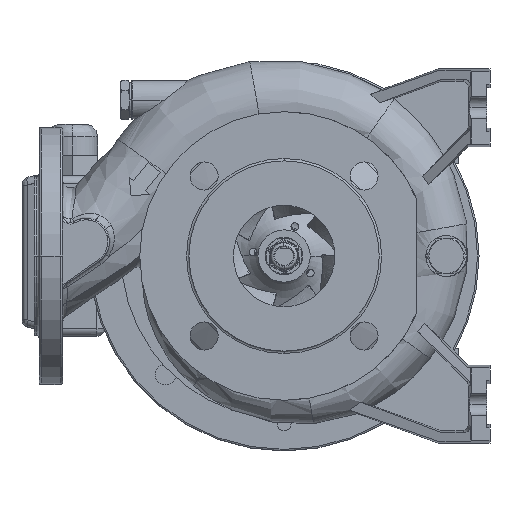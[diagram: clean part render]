
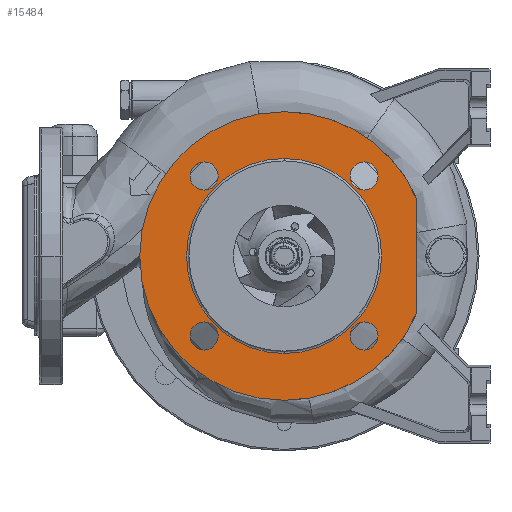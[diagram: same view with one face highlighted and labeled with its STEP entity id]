
A CAD part, left-side view. The second image highlights one B-rep face of the part: STEP entity #15484.
In plain terms, the highlighted planar face has unit normal (-1, 0, 0).
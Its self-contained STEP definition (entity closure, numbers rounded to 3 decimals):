
#1110 = CARTESIAN_POINT ( 'NONE',  ( -113., 51.265, 51.265 ) ) ;
#2060 = EDGE_LOOP ( 'NONE', ( #25164, #75571 ) ) ;
#2558 = CARTESIAN_POINT ( 'NONE',  ( -113., 51.265, 51.265 ) ) ;
#3131 = PLANE ( 'NONE',  #74619 ) ;
#3897 = AXIS2_PLACEMENT_3D ( 'NONE', #80442, #105659, #15649 ) ;
#4099 = CARTESIAN_POINT ( 'NONE',  ( -113., 0., 0. ) ) ;
#4300 = CARTESIAN_POINT ( 'NONE',  ( -113., -85., -40.137 ) ) ;
#7100 = AXIS2_PLACEMENT_3D ( 'NONE', #2558, #84758, #11074 ) ;
#7129 = CARTESIAN_POINT ( 'NONE',  ( -113., 0., 62.5 ) ) ;
#7567 = DIRECTION ( 'NONE',  ( 0., 0., -1. ) ) ;
#7575 = EDGE_CURVE ( 'NONE', #91509, #90825, #26803, .T. ) ;
#7909 = FACE_BOUND ( 'NONE', #21168, .T. ) ;
#8040 = VERTEX_POINT ( 'NONE', #83973 ) ;
#8208 = CARTESIAN_POINT ( 'NONE',  ( -113., -51.265, -51.265 ) ) ;
#8448 = DIRECTION ( 'NONE',  ( 0., 0., 1. ) ) ;
#10129 = CARTESIAN_POINT ( 'NONE',  ( -113., -85., -36.486 ) ) ;
#11074 = DIRECTION ( 'NONE',  ( 0., 0., 1. ) ) ;
#12376 = CIRCLE ( 'NONE', #55450, 9. ) ;
#12778 = AXIS2_PLACEMENT_3D ( 'NONE', #17934, #59227, #90882 ) ;
#13048 = DIRECTION ( 'NONE',  ( -1., 0., 0. ) ) ;
#14053 = ORIENTED_EDGE ( 'NONE', *, *, #66824, .T. ) ;
#14190 = CIRCLE ( 'NONE', #36866, 92.5 ) ;
#14642 = DIRECTION ( 'NONE',  ( -1., 0., 0. ) ) ;
#15484 = ADVANCED_FACE ( 'NONE', ( #81810, #7909, #41049, #48729, #60144, #103396 ), #3131, .F. ) ;
#15649 = DIRECTION ( 'NONE',  ( 0., 0., 1. ) ) ;
#16506 = VERTEX_POINT ( 'NONE', #60243 ) ;
#16699 = VERTEX_POINT ( 'NONE', #7129 ) ;
#17934 = CARTESIAN_POINT ( 'NONE',  ( -113., -51.265, -51.265 ) ) ;
#18138 = EDGE_CURVE ( 'NONE', #90825, #37821, #14190, .T. ) ;
#19154 = DIRECTION ( 'NONE',  ( -1., 0., 0. ) ) ;
#19727 = EDGE_CURVE ( 'NONE', #16699, #34787, #89778, .T. ) ;
#20190 = CIRCLE ( 'NONE', #40835, 92.5 ) ;
#20220 = CARTESIAN_POINT ( 'NONE',  ( -113., -51.265, -60.265 ) ) ;
#20518 = EDGE_CURVE ( 'NONE', #73718, #30059, #88342, .T. ) ;
#21168 = EDGE_LOOP ( 'NONE', ( #68301, #64631 ) ) ;
#25164 = ORIENTED_EDGE ( 'NONE', *, *, #35934, .F. ) ;
#25428 = CARTESIAN_POINT ( 'NONE',  ( -113., 0., 0. ) ) ;
#26449 = DIRECTION ( 'NONE',  ( -1., 0., 0. ) ) ;
#26495 = VERTEX_POINT ( 'NONE', #58311 ) ;
#26777 = CIRCLE ( 'NONE', #75541, 9. ) ;
#26803 = CIRCLE ( 'NONE', #44286, 92.5 ) ;
#27037 = CARTESIAN_POINT ( 'NONE',  ( -113., 0., 62.5 ) ) ;
#28062 = DIRECTION ( 'NONE',  ( 0., 0., -1. ) ) ;
#30059 = VERTEX_POINT ( 'NONE', #77895 ) ;
#34787 = VERTEX_POINT ( 'NONE', #40328 ) ;
#34870 = EDGE_CURVE ( 'NONE', #8040, #26495, #26777, .T. ) ;
#35895 = DIRECTION ( 'NONE',  ( 0., 0., -1. ) ) ;
#35934 = EDGE_CURVE ( 'NONE', #30059, #73718, #86484, .T. ) ;
#36866 = AXIS2_PLACEMENT_3D ( 'NONE', #102371, #13048, #78964 ) ;
#37821 = VERTEX_POINT ( 'NONE', #84450 ) ;
#38179 = ORIENTED_EDGE ( 'NONE', *, *, #34870, .F. ) ;
#39131 = AXIS2_PLACEMENT_3D ( 'NONE', #25428, #48212, #7567 ) ;
#40262 = EDGE_LOOP ( 'NONE', ( #77741, #67063 ) ) ;
#40328 = CARTESIAN_POINT ( 'NONE',  ( -113., 0., -62.5 ) ) ;
#40835 = AXIS2_PLACEMENT_3D ( 'NONE', #4099, #68271, #28062 ) ;
#41049 = FACE_BOUND ( 'NONE', #40262, .T. ) ;
#42611 = DIRECTION ( 'NONE',  ( -1., 0., 0. ) ) ;
#43068 = ORIENTED_EDGE ( 'NONE', *, *, #64699, .F. ) ;
#43722 = CARTESIAN_POINT ( 'NONE',  ( -113., 0., 0. ) ) ;
#43901 = DIRECTION ( 'NONE',  ( 0., 0., -1. ) ) ;
#44286 = AXIS2_PLACEMENT_3D ( 'NONE', #50797, #42611, #83872 ) ;
#44760 = CARTESIAN_POINT ( 'NONE',  ( -113., -85., 36.486 ) ) ;
#46944 = EDGE_LOOP ( 'NONE', ( #89803, #38179 ) ) ;
#47783 = DIRECTION ( 'NONE',  ( 0., 0., 1. ) ) ;
#48157 = AXIS2_PLACEMENT_3D ( 'NONE', #64744, #88545, #8448 ) ;
#48212 = DIRECTION ( 'NONE',  ( 1., 0., 0. ) ) ;
#48729 = FACE_BOUND ( 'NONE', #46944, .T. ) ;
#50797 = CARTESIAN_POINT ( 'NONE',  ( -113., 0., 0. ) ) ;
#51078 = AXIS2_PLACEMENT_3D ( 'NONE', #43722, #93126, #35895 ) ;
#51120 = EDGE_CURVE ( 'NONE', #34787, #16699, #84271, .T. ) ;
#51954 = CIRCLE ( 'NONE', #75896, 9. ) ;
#52162 = CIRCLE ( 'NONE', #48157, 9. ) ;
#55450 = AXIS2_PLACEMENT_3D ( 'NONE', #8208, #104995, #47783 ) ;
#58311 = CARTESIAN_POINT ( 'NONE',  ( -113., 51.265, 60.265 ) ) ;
#59227 = DIRECTION ( 'NONE',  ( -1., 0., 0. ) ) ;
#60144 = FACE_OUTER_BOUND ( 'NONE', #76584, .T. ) ;
#60243 = CARTESIAN_POINT ( 'NONE',  ( -113., -51.265, 60.265 ) ) ;
#60927 = ORIENTED_EDGE ( 'NONE', *, *, #51120, .T. ) ;
#62766 = EDGE_LOOP ( 'NONE', ( #60927, #63619 ) ) ;
#63137 = ORIENTED_EDGE ( 'NONE', *, *, #7575, .T. ) ;
#63619 = ORIENTED_EDGE ( 'NONE', *, *, #19727, .T. ) ;
#63701 = CIRCLE ( 'NONE', #12778, 9. ) ;
#64631 = ORIENTED_EDGE ( 'NONE', *, *, #64638, .F. ) ;
#64638 = EDGE_CURVE ( 'NONE', #95835, #72438, #63701, .T. ) ;
#64699 = EDGE_CURVE ( 'NONE', #91509, #95002, #91687, .T. ) ;
#64744 = CARTESIAN_POINT ( 'NONE',  ( -113., -51.265, 51.265 ) ) ;
#64930 = CARTESIAN_POINT ( 'NONE',  ( -113., -51.265, 42.265 ) ) ;
#66688 = CARTESIAN_POINT ( 'NONE',  ( -113., -51.265, -42.265 ) ) ;
#66824 = EDGE_CURVE ( 'NONE', #37821, #95002, #20190, .T. ) ;
#67063 = ORIENTED_EDGE ( 'NONE', *, *, #99673, .F. ) ;
#67937 = CARTESIAN_POINT ( 'NONE',  ( -113., 51.265, -51.265 ) ) ;
#68271 = DIRECTION ( 'NONE',  ( -1., 0., 0. ) ) ;
#68301 = ORIENTED_EDGE ( 'NONE', *, *, #99884, .F. ) ;
#68842 = VECTOR ( 'NONE', #43901, 1000. ) ;
#71904 = AXIS2_PLACEMENT_3D ( 'NONE', #67937, #19154, #76152 ) ;
#72438 = VERTEX_POINT ( 'NONE', #66688 ) ;
#73718 = VERTEX_POINT ( 'NONE', #87062 ) ;
#74619 = AXIS2_PLACEMENT_3D ( 'NONE', #27037, #93514, #84302 ) ;
#75541 = AXIS2_PLACEMENT_3D ( 'NONE', #1110, #26449, #82669 ) ;
#75571 = ORIENTED_EDGE ( 'NONE', *, *, #20518, .F. ) ;
#75896 = AXIS2_PLACEMENT_3D ( 'NONE', #78424, #14642, #95084 ) ;
#76152 = DIRECTION ( 'NONE',  ( 0., 0., 1. ) ) ;
#76584 = EDGE_LOOP ( 'NONE', ( #43068, #63137, #81264, #14053 ) ) ;
#76802 = EDGE_CURVE ( 'NONE', #16506, #90413, #52162, .T. ) ;
#77741 = ORIENTED_EDGE ( 'NONE', *, *, #76802, .F. ) ;
#77895 = CARTESIAN_POINT ( 'NONE',  ( -113., 51.265, -42.265 ) ) ;
#78424 = CARTESIAN_POINT ( 'NONE',  ( -113., -51.265, 51.265 ) ) ;
#78964 = DIRECTION ( 'NONE',  ( 0., 0., -1. ) ) ;
#80442 = CARTESIAN_POINT ( 'NONE',  ( -113., 51.265, -51.265 ) ) ;
#81264 = ORIENTED_EDGE ( 'NONE', *, *, #18138, .T. ) ;
#81810 = FACE_BOUND ( 'NONE', #2060, .T. ) ;
#82669 = DIRECTION ( 'NONE',  ( 0., 0., 1. ) ) ;
#83872 = DIRECTION ( 'NONE',  ( 0., 0., -1. ) ) ;
#83973 = CARTESIAN_POINT ( 'NONE',  ( -113., 51.265, 42.265 ) ) ;
#84271 = CIRCLE ( 'NONE', #51078, 62.5 ) ;
#84302 = DIRECTION ( 'NONE',  ( 0., 0., -1. ) ) ;
#84450 = CARTESIAN_POINT ( 'NONE',  ( -113., 0., -92.5 ) ) ;
#84758 = DIRECTION ( 'NONE',  ( -1., 0., 0. ) ) ;
#86484 = CIRCLE ( 'NONE', #3897, 9. ) ;
#87062 = CARTESIAN_POINT ( 'NONE',  ( -113., 51.265, -60.265 ) ) ;
#87716 = EDGE_CURVE ( 'NONE', #26495, #8040, #105635, .T. ) ;
#88342 = CIRCLE ( 'NONE', #71904, 9. ) ;
#88545 = DIRECTION ( 'NONE',  ( -1., 0., 0. ) ) ;
#89778 = CIRCLE ( 'NONE', #39131, 62.5 ) ;
#89803 = ORIENTED_EDGE ( 'NONE', *, *, #87716, .F. ) ;
#90413 = VERTEX_POINT ( 'NONE', #64930 ) ;
#90825 = VERTEX_POINT ( 'NONE', #96323 ) ;
#90882 = DIRECTION ( 'NONE',  ( 0., 0., 1. ) ) ;
#91509 = VERTEX_POINT ( 'NONE', #44760 ) ;
#91687 = LINE ( 'NONE', #4300, #68842 ) ;
#93126 = DIRECTION ( 'NONE',  ( 1., 0., 0. ) ) ;
#93514 = DIRECTION ( 'NONE',  ( 1., 0., 0. ) ) ;
#95002 = VERTEX_POINT ( 'NONE', #10129 ) ;
#95084 = DIRECTION ( 'NONE',  ( 0., 0., 1. ) ) ;
#95835 = VERTEX_POINT ( 'NONE', #20220 ) ;
#96323 = CARTESIAN_POINT ( 'NONE',  ( -113., 0., 92.5 ) ) ;
#99673 = EDGE_CURVE ( 'NONE', #90413, #16506, #51954, .T. ) ;
#99884 = EDGE_CURVE ( 'NONE', #72438, #95835, #12376, .T. ) ;
#102371 = CARTESIAN_POINT ( 'NONE',  ( -113., 0., 0. ) ) ;
#103396 = FACE_BOUND ( 'NONE', #62766, .T. ) ;
#104995 = DIRECTION ( 'NONE',  ( -1., 0., 0. ) ) ;
#105635 = CIRCLE ( 'NONE', #7100, 9. ) ;
#105659 = DIRECTION ( 'NONE',  ( -1., 0., 0. ) ) ;
